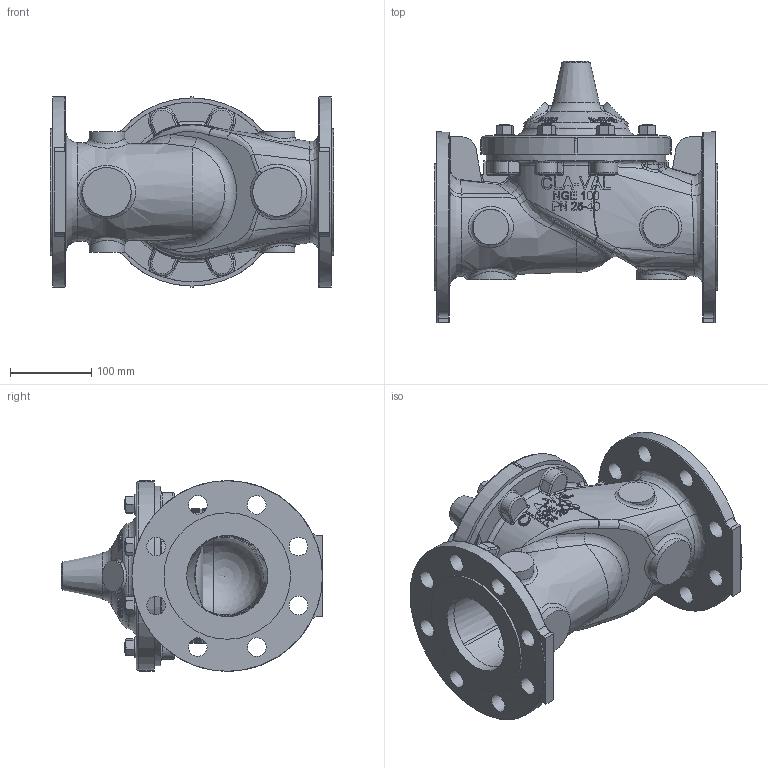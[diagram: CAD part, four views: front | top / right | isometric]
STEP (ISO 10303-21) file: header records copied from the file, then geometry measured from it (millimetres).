
FILE_DESCRIPTION(/* description */ (''),/* implementation_level */ '2;1');
FILE_NAME(/* name */ 'G:\Doc_Liberes\SymbolesCAD\Modeles_3D\FichierSTP\VanneDeBase\NGE100-40RF.stp',/* time_stamp */ '2023-08-18T10:53:06+02:00',/* author */ ('theo'),/* organization */ (''),/* preprocessor_version */ 'ST-DEVELOPER v18.1',/* originating_system */ 'Autodesk Inventor 2022',/* authorisation */ '');
FILE_SCHEMA (('AUTOMOTIVE_DESIGN { 1 0 10303 214 3 1 1 }'));
Products named in the file (1): nge100-40_Simplifier_1
Bounding box: 350 x 321.95 x 235 mm (x, y, z)
Volume: 4181257.7 mm3; surface area: 639459.8 mm2
Topology: 1 solids, 1 shells, 1844 faces, 4851 edges, 3097 vertices
Faces by surface type: plane 769, bspline 496, cone 304, cylinder 205, torus 65, sphere 5
Full cylindrical faces by diameter (mm): 12.7 x16, 23 x16, 25.4 x8, 33.3 x1, 38 x2, 44 x2, 100 x2, 108.2 x2, 156 x2, 221.8 x1, 232 x1, 235 x2
Entity records: 92715 total; most frequent: CARTESIAN_POINT 52488, ORIENTED_EDGE 9668, DIRECTION 6699, EDGE_CURVE 4834, VERTEX_POINT 3098, AXIS2_PLACEMENT_3D 2720, EDGE_LOOP 2000, FACE_OUTER_BOUND 1844
